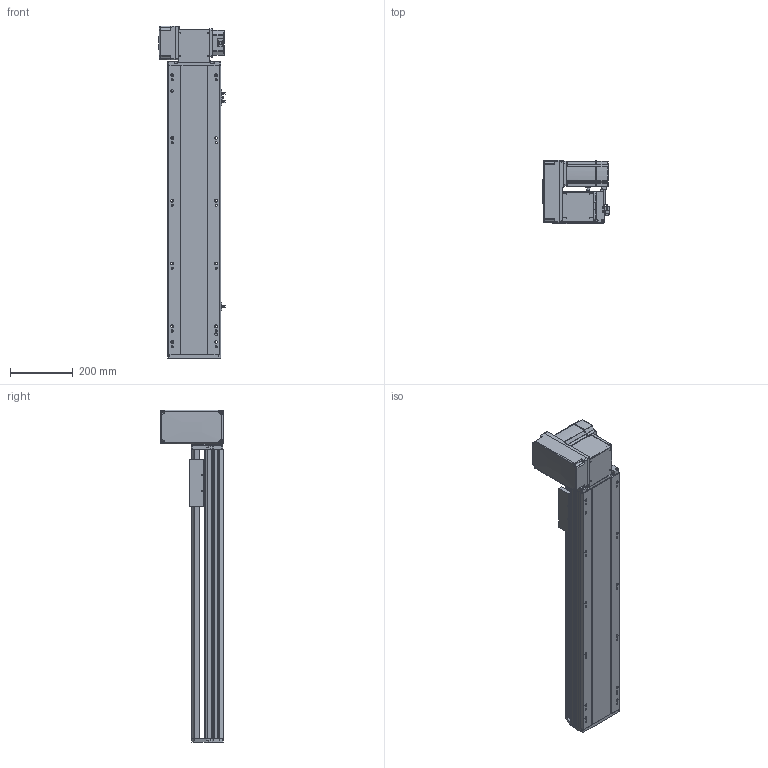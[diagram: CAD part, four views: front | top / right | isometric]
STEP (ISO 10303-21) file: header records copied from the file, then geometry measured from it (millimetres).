
FILE_DESCRIPTION (( 'STEP AP214' ), '1' );
FILE_NAME ('RTB17S-XX-650-LW-M75-C4.STEP', '2025-12-12T01:01:58', ( '' ), ( '' ), 'SwSTEP 2.0', 'SolidWorks 2018', '' );
FILE_SCHEMA (( 'AUTOMOTIVE_DESIGN' ));
Length unit declared in the file: millimetre
Products named in the file (15): RTB17S-L-007奻裔^RTB17S-XX-XX-LW-M75-C4; EE672^RTB17S-XX-XX-LW-M75-C4; RTB17S-L-014-T20-P75--々湍釱^RTB17S-LW-々湍釱蚾饜-750W_RTB17S-XX-XX-LW-M75-C4; RTB22S-GY-018P^RTB17S-LW-々湍釱蚾饜-750W_RTB17S-XX-XX-LW-M75-C4; RTB17S-XX-650-LW-M75-C4; RTB17S-賑釱^RTB17S-XX-XX-LW-M75-C4; RTH13-BL-012覜茼え俋离^RTB17S-賑釱_RTB17S-XX-XX-LW-M75-C4; RTB17-R-011菁釱^RTB17S-XX-XX-LW-M75-C4; RTB22S-GY-017P^RTB17S-LW-々湍釱蚾饜-750W_RTB17S-XX-XX-LW-M75-C4; RTB17S-L-004-賑釱^RTB17S-賑釱_RTB17S-XX-XX-LW-M75-C4; RTB17S-LW-々湍釱蚾饜-750W^RTB17S-XX-XX-LW-M75-C4; 750W萇儂^RTB17S-XX-XX-LW-M75-C4; RTB22S-GY-008-M75--萇儂啣^RTB17S-LW-々湍釱蚾饜-750W_RTB17S-XX-XX-LW-M75-C4; RTB22S-GY-005P^RTB17S-LW-々湍釱蚾饜-750W_RTB17S-XX-XX-LW-M75-C4; RTB17S-L-001-耜醱啣^RTB17S-XX-XX-LW-M75-C4
Assembly tree (17 placements, depth 3):
  RTB17S-XX-650-LW-M75-C4
    RTB17-R-011菁釱^RTB17S-XX-XX-LW-M75-C4
    EE672^RTB17S-XX-XX-LW-M75-C4  x3
    RTB17S-L-001-耜醱啣^RTB17S-XX-XX-LW-M75-C4
    RTB17S-賑釱^RTB17S-XX-XX-LW-M75-C4
      RTB17S-L-004-賑釱^RTB17S-賑釱_RTB17S-XX-XX-LW-M75-C4
      RTH13-BL-012覜茼え俋离^RTB17S-賑釱_RTB17S-XX-XX-LW-M75-C4
    RTB17S-L-007奻裔^RTB17S-XX-XX-LW-M75-C4
    750W萇儂^RTB17S-XX-XX-LW-M75-C4
    RTB17S-LW-々湍釱蚾饜-750W^RTB17S-XX-XX-LW-M75-C4
      RTB17S-L-014-T20-P75--々湍釱^RTB17S-LW-々湍釱蚾饜-750W_RTB17S-XX-XX-LW-M75-C4
      RTB22S-GY-005P^RTB17S-LW-々湍釱蚾饜-750W_RTB17S-XX-XX-LW-M75-C4
      RTB22S-GY-017P^RTB17S-LW-々湍釱蚾饜-750W_RTB17S-XX-XX-LW-M75-C4  x2
      RTB22S-GY-008-M75--萇儂啣^RTB17S-LW-々湍釱蚾饜-750W_RTB17S-XX-XX-LW-M75-C4
      RTB22S-GY-018P^RTB17S-LW-々湍釱蚾饜-750W_RTB17S-XX-XX-LW-M75-C4
Bounding box: 210.4 x 201.5 x 1057.5 mm (x, y, z)
Volume: 10007991.2 mm3; surface area: 1642802.5 mm2
Topology: 17 solids, 17 shells, 2073 faces, 5728 edges, 3698 vertices
Faces by surface type: plane 968, cylinder 689, bspline 294, cone 110, sphere 8, torus 4
Entity records: 57334 total; most frequent: CARTESIAN_POINT 16792, ORIENTED_EDGE 8300, DIRECTION 7772, EDGE_CURVE 4150, AXIS2_PLACEMENT_3D 2718, VERTEX_POINT 2702, VECTOR 2336, LINE 2336
